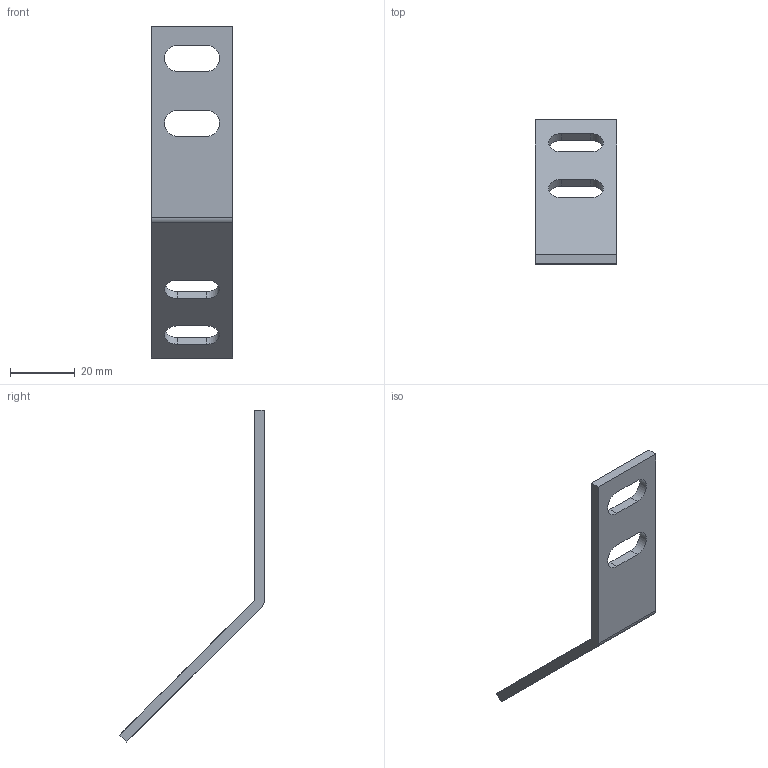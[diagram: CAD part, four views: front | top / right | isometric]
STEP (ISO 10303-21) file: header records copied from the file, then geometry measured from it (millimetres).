
FILE_DESCRIPTION (( 'STEP AP203' ), '1' );
FILE_NAME ('WB13525-6.STEP', '2024-02-17T08:03:57', ( '' ), ( '' ), 'SwSTEP 2.0', 'SolidWorks 2022', '' );
FILE_SCHEMA (( 'CONFIG_CONTROL_DESIGN' ));
Length unit declared in the file: millimetre
Products named in the file (1): WB13525-6
Bounding box: 25 x 44.55 x 102.43 mm (x, y, z)
Volume: 7437.5 mm3; surface area: 6337.6 mm2
Topology: 1 solids, 1 shells, 25 faces, 69 edges, 46 vertices
Faces by surface type: plane 16, cylinder 9
Entity records: 894 total; most frequent: CARTESIAN_POINT 141, DIRECTION 139, ORIENTED_EDGE 138, EDGE_CURVE 69, LINE 51, VECTOR 51, VERTEX_POINT 46, AXIS2_PLACEMENT_3D 44
